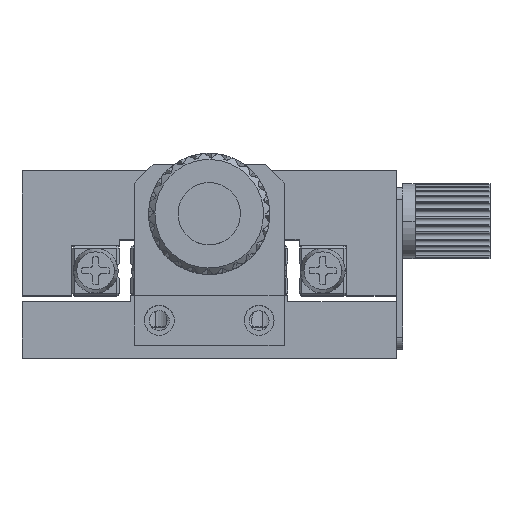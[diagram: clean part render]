
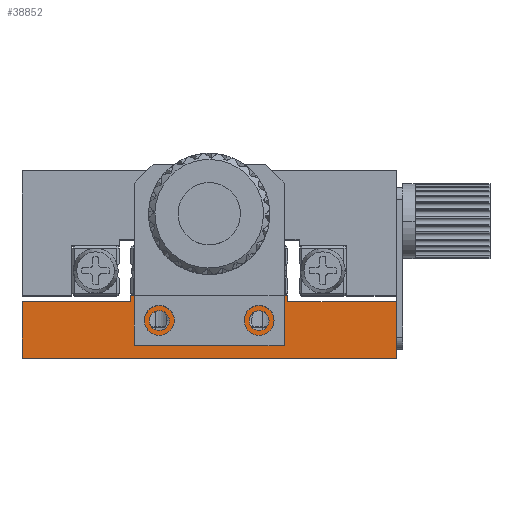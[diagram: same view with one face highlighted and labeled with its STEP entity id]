
A CAD part, top view. The second image highlights one B-rep face of the part: STEP entity #38852.
In plain terms, the highlighted planar face has unit normal (0, 0, 1).
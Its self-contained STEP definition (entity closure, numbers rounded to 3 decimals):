
#472 = DIRECTION ( 'NONE',  ( -1., 0., 0. ) ) ;
#750 = VERTEX_POINT ( 'NONE', #5874 ) ;
#817 = LINE ( 'NONE', #20180, #28130 ) ;
#1071 = PLANE ( 'NONE',  #8668 ) ;
#1608 = CARTESIAN_POINT ( 'NONE',  ( -4., 3., 15. ) ) ;
#1806 = EDGE_CURVE ( 'NONE', #17417, #11316, #18122, .T. ) ;
#2426 = DIRECTION ( 'NONE',  ( 0., -1., 0. ) ) ;
#2438 = CARTESIAN_POINT ( 'NONE',  ( -2.5, 7., 15. ) ) ;
#3021 = FACE_OUTER_BOUND ( 'NONE', #42454, .T. ) ;
#3401 = CARTESIAN_POINT ( 'NONE',  ( -4.8, 3., 15. ) ) ;
#3700 = EDGE_CURVE ( 'NONE', #35883, #8242, #31966, .T. ) ;
#3975 = EDGE_LOOP ( 'NONE', ( #12154, #39319 ) ) ;
#4609 = EDGE_CURVE ( 'NONE', #26709, #28625, #7860, .T. ) ;
#4771 = LINE ( 'NONE', #16606, #41552 ) ;
#5204 = DIRECTION ( 'NONE',  ( 1., 0., 0. ) ) ;
#5384 = VECTOR ( 'NONE', #16413, 1000. ) ;
#5437 = CARTESIAN_POINT ( 'NONE',  ( 2.5, 5., 15. ) ) ;
#5874 = CARTESIAN_POINT ( 'NONE',  ( 6.3, 4.5, 15. ) ) ;
#6253 = AXIS2_PLACEMENT_3D ( 'NONE', #17723, #42634, #21316 ) ;
#6948 = CARTESIAN_POINT ( 'NONE',  ( 15., 4.5, 15. ) ) ;
#7719 = VERTEX_POINT ( 'NONE', #19942 ) ;
#7750 = VERTEX_POINT ( 'NONE', #30668 ) ;
#7860 = CIRCLE ( 'NONE', #27232, 0.8 ) ;
#7911 = VECTOR ( 'NONE', #472, 1000. ) ;
#7978 = CARTESIAN_POINT ( 'NONE',  ( -15., 0., 15. ) ) ;
#8053 = LINE ( 'NONE', #40475, #23715 ) ;
#8058 = VECTOR ( 'NONE', #43674, 1000. ) ;
#8242 = VERTEX_POINT ( 'NONE', #44412 ) ;
#8593 = CARTESIAN_POINT ( 'NONE',  ( 2.5, 7., 15. ) ) ;
#8668 = AXIS2_PLACEMENT_3D ( 'NONE', #36764, #40303, #18997 ) ;
#8737 = DIRECTION ( 'NONE',  ( 0., 0., 1. ) ) ;
#8972 = DIRECTION ( 'NONE',  ( 0., 1., 0. ) ) ;
#9759 = DIRECTION ( 'NONE',  ( 0., 1., 0. ) ) ;
#10700 = ORIENTED_EDGE ( 'NONE', *, *, #33091, .F. ) ;
#11092 = CARTESIAN_POINT ( 'NONE',  ( -6.3, 5., 15. ) ) ;
#11162 = LINE ( 'NONE', #25028, #19560 ) ;
#11316 = VERTEX_POINT ( 'NONE', #44159 ) ;
#11329 = CARTESIAN_POINT ( 'NONE',  ( 4.8, 3., 15. ) ) ;
#12154 = ORIENTED_EDGE ( 'NONE', *, *, #24715, .F. ) ;
#12197 = EDGE_CURVE ( 'NONE', #24509, #7719, #27048, .T. ) ;
#12285 = VERTEX_POINT ( 'NONE', #6948 ) ;
#12444 = FACE_BOUND ( 'NONE', #27490, .T. ) ;
#13276 = CIRCLE ( 'NONE', #16520, 0.8 ) ;
#13322 = ORIENTED_EDGE ( 'NONE', *, *, #1806, .T. ) ;
#15655 = CARTESIAN_POINT ( 'NONE',  ( -4., 3., 15. ) ) ;
#15738 = CARTESIAN_POINT ( 'NONE',  ( -15., 4.5, 15. ) ) ;
#16101 = CARTESIAN_POINT ( 'NONE',  ( 6.3, 4.5, 15. ) ) ;
#16413 = DIRECTION ( 'NONE',  ( 0., 1., 0. ) ) ;
#16520 = AXIS2_PLACEMENT_3D ( 'NONE', #15655, #40573, #19259 ) ;
#16606 = CARTESIAN_POINT ( 'NONE',  ( -6.3, 5., 15. ) ) ;
#17417 = VERTEX_POINT ( 'NONE', #2438 ) ;
#17531 = ORIENTED_EDGE ( 'NONE', *, *, #3700, .T. ) ;
#17723 = CARTESIAN_POINT ( 'NONE',  ( 4., 3., 15. ) ) ;
#18122 = LINE ( 'NONE', #40920, #35971 ) ;
#18129 = ORIENTED_EDGE ( 'NONE', *, *, #37784, .T. ) ;
#18340 = VERTEX_POINT ( 'NONE', #3401 ) ;
#18485 = EDGE_CURVE ( 'NONE', #18340, #37087, #13276, .T. ) ;
#18997 = DIRECTION ( 'NONE',  ( 1., 0., 0. ) ) ;
#19259 = DIRECTION ( 'NONE',  ( 1., 0., 0. ) ) ;
#19560 = VECTOR ( 'NONE', #42777, 1000. ) ;
#19942 = CARTESIAN_POINT ( 'NONE',  ( -15., 0., 15. ) ) ;
#20180 = CARTESIAN_POINT ( 'NONE',  ( -6.3, 4.5, 15. ) ) ;
#20270 = CARTESIAN_POINT ( 'NONE',  ( 15., 0., 15. ) ) ;
#21051 = ORIENTED_EDGE ( 'NONE', *, *, #43704, .T. ) ;
#21316 = DIRECTION ( 'NONE',  ( 1., 0., 0. ) ) ;
#22893 = CARTESIAN_POINT ( 'NONE',  ( 3.2, 3., 15. ) ) ;
#22982 = EDGE_CURVE ( 'NONE', #11316, #45334, #4771, .T. ) ;
#23238 = CARTESIAN_POINT ( 'NONE',  ( 2.5, 7., 15. ) ) ;
#23611 = CARTESIAN_POINT ( 'NONE',  ( 15., 0., 15. ) ) ;
#23668 = ORIENTED_EDGE ( 'NONE', *, *, #38332, .T. ) ;
#23715 = VECTOR ( 'NONE', #44059, 1000. ) ;
#24311 = VERTEX_POINT ( 'NONE', #23611 ) ;
#24509 = VERTEX_POINT ( 'NONE', #29241 ) ;
#24715 = EDGE_CURVE ( 'NONE', #28625, #26709, #37001, .T. ) ;
#25028 = CARTESIAN_POINT ( 'NONE',  ( 15., 4.5, 15. ) ) ;
#25389 = CARTESIAN_POINT ( 'NONE',  ( 6.3, 5., 15. ) ) ;
#25585 = ORIENTED_EDGE ( 'NONE', *, *, #42033, .T. ) ;
#25817 = ORIENTED_EDGE ( 'NONE', *, *, #12197, .T. ) ;
#26513 = DIRECTION ( 'NONE',  ( 0., 0., 1. ) ) ;
#26709 = VERTEX_POINT ( 'NONE', #22893 ) ;
#27048 = LINE ( 'NONE', #7978, #8058 ) ;
#27180 = DIRECTION ( 'NONE',  ( -1., 0., 0. ) ) ;
#27232 = AXIS2_PLACEMENT_3D ( 'NONE', #30139, #8737, #33721 ) ;
#27490 = EDGE_LOOP ( 'NONE', ( #10700, #41100 ) ) ;
#27853 = CARTESIAN_POINT ( 'NONE',  ( -3.2, 3., 15. ) ) ;
#27951 = VECTOR ( 'NONE', #37090, 1000. ) ;
#28130 = VECTOR ( 'NONE', #2426, 1000. ) ;
#28625 = VERTEX_POINT ( 'NONE', #11329 ) ;
#28888 = VECTOR ( 'NONE', #8972, 1000. ) ;
#29056 = AXIS2_PLACEMENT_3D ( 'NONE', #1608, #26513, #5204 ) ;
#29241 = CARTESIAN_POINT ( 'NONE',  ( -15., 4.5, 15. ) ) ;
#30139 = CARTESIAN_POINT ( 'NONE',  ( 4., 3., 15. ) ) ;
#30668 = CARTESIAN_POINT ( 'NONE',  ( -6.3, 4.5, 15. ) ) ;
#31461 = FACE_BOUND ( 'NONE', #3975, .T. ) ;
#31966 = LINE ( 'NONE', #25389, #7911 ) ;
#32316 = VECTOR ( 'NONE', #41036, 1000. ) ;
#33091 = EDGE_CURVE ( 'NONE', #37087, #18340, #41758, .T. ) ;
#33432 = LINE ( 'NONE', #8593, #32316 ) ;
#33721 = DIRECTION ( 'NONE',  ( 1., 0., 0. ) ) ;
#33823 = LINE ( 'NONE', #16101, #5384 ) ;
#33967 = VERTEX_POINT ( 'NONE', #23238 ) ;
#34090 = VECTOR ( 'NONE', #9759, 1000. ) ;
#34748 = CARTESIAN_POINT ( 'NONE',  ( 6.3, 5., 15. ) ) ;
#34788 = ORIENTED_EDGE ( 'NONE', *, *, #36496, .T. ) ;
#35311 = ORIENTED_EDGE ( 'NONE', *, *, #44710, .T. ) ;
#35883 = VERTEX_POINT ( 'NONE', #34748 ) ;
#35971 = VECTOR ( 'NONE', #37335, 1000. ) ;
#36496 = EDGE_CURVE ( 'NONE', #750, #35883, #33823, .T. ) ;
#36764 = CARTESIAN_POINT ( 'NONE',  ( 0., 0., 15. ) ) ;
#37001 = CIRCLE ( 'NONE', #6253, 0.8 ) ;
#37087 = VERTEX_POINT ( 'NONE', #27853 ) ;
#37090 = DIRECTION ( 'NONE',  ( -1., 0., 0. ) ) ;
#37335 = DIRECTION ( 'NONE',  ( 0., -1., 0. ) ) ;
#37420 = LINE ( 'NONE', #15738, #27951 ) ;
#37651 = ORIENTED_EDGE ( 'NONE', *, *, #42569, .T. ) ;
#37784 = EDGE_CURVE ( 'NONE', #7719, #24311, #8053, .T. ) ;
#38332 = EDGE_CURVE ( 'NONE', #45334, #7750, #817, .T. ) ;
#38852 = ADVANCED_FACE ( 'NONE', ( #12444, #31461, #3021 ), #1071, .T. ) ;
#39319 = ORIENTED_EDGE ( 'NONE', *, *, #4609, .F. ) ;
#40303 = DIRECTION ( 'NONE',  ( 0., 0., 1. ) ) ;
#40475 = CARTESIAN_POINT ( 'NONE',  ( -15., 0., 15. ) ) ;
#40573 = DIRECTION ( 'NONE',  ( 0., 0., 1. ) ) ;
#40595 = LINE ( 'NONE', #5437, #28888 ) ;
#40920 = CARTESIAN_POINT ( 'NONE',  ( -2.5, 5., 15. ) ) ;
#41036 = DIRECTION ( 'NONE',  ( -1., 0., 0. ) ) ;
#41100 = ORIENTED_EDGE ( 'NONE', *, *, #18485, .F. ) ;
#41552 = VECTOR ( 'NONE', #27180, 1000. ) ;
#41758 = CIRCLE ( 'NONE', #29056, 0.8 ) ;
#41935 = EDGE_CURVE ( 'NONE', #7750, #24509, #37420, .T. ) ;
#42033 = EDGE_CURVE ( 'NONE', #24311, #12285, #43531, .T. ) ;
#42454 = EDGE_LOOP ( 'NONE', ( #34788, #17531, #35311, #21051, #13322, #45106, #23668, #45921, #25817, #18129, #25585, #37651 ) ) ;
#42569 = EDGE_CURVE ( 'NONE', #12285, #750, #11162, .T. ) ;
#42634 = DIRECTION ( 'NONE',  ( 0., 0., 1. ) ) ;
#42777 = DIRECTION ( 'NONE',  ( -1., 0., 0. ) ) ;
#43531 = LINE ( 'NONE', #20270, #34090 ) ;
#43674 = DIRECTION ( 'NONE',  ( 0., -1., 0. ) ) ;
#43704 = EDGE_CURVE ( 'NONE', #33967, #17417, #33432, .T. ) ;
#44059 = DIRECTION ( 'NONE',  ( 1., 0., 0. ) ) ;
#44159 = CARTESIAN_POINT ( 'NONE',  ( -2.5, 5., 15. ) ) ;
#44412 = CARTESIAN_POINT ( 'NONE',  ( 2.5, 5., 15. ) ) ;
#44710 = EDGE_CURVE ( 'NONE', #8242, #33967, #40595, .T. ) ;
#45106 = ORIENTED_EDGE ( 'NONE', *, *, #22982, .T. ) ;
#45334 = VERTEX_POINT ( 'NONE', #11092 ) ;
#45921 = ORIENTED_EDGE ( 'NONE', *, *, #41935, .T. ) ;
